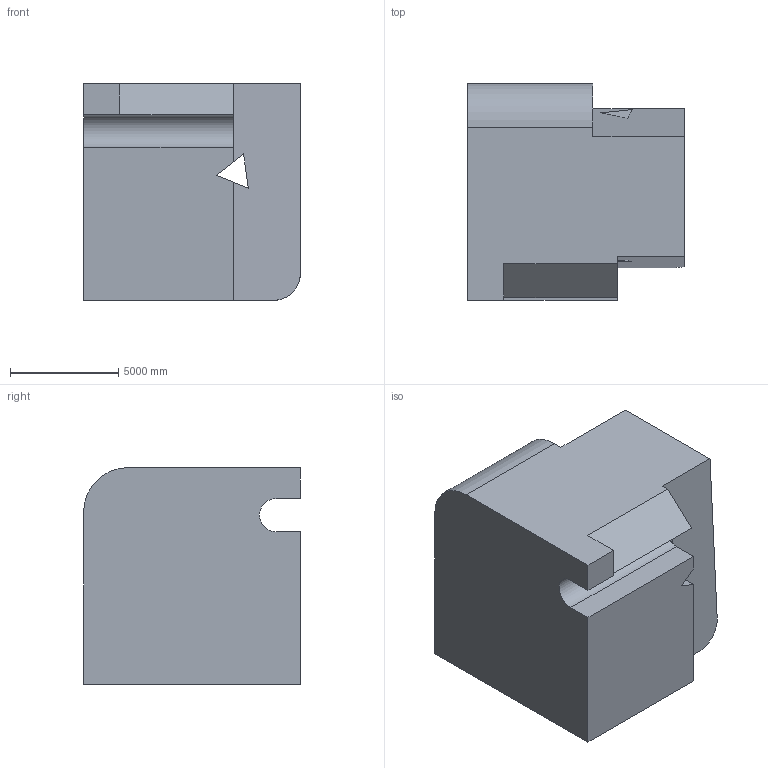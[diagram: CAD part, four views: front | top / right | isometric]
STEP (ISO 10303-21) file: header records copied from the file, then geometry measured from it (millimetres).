
FILE_DESCRIPTION (( 'STEP AP203' ), '1' );
FILE_NAME ('773.STEP', '2022-07-29T13:06:36', ( 'user' ), ( '' ), 'SwSTEP 2.0', 'SolidWorks 2021', '' );
FILE_SCHEMA (( 'CONFIG_CONTROL_DESIGN' ));
Length unit declared in the file: centimetre
Products named in the file (1): 773
Bounding box: 10000 x 10000 x 10000 mm (x, y, z)
Volume: 826163681636.7 mm3; surface area: 610177132.2 mm2
Topology: 1 solids, 1 shells, 28 faces, 78 edges, 52 vertices
Faces by surface type: plane 25, cylinder 3
Entity records: 967 total; most frequent: CARTESIAN_POINT 165, ORIENTED_EDGE 156, DIRECTION 138, EDGE_CURVE 78, VECTOR 72, LINE 72, VERTEX_POINT 52, AXIS2_PLACEMENT_3D 33
